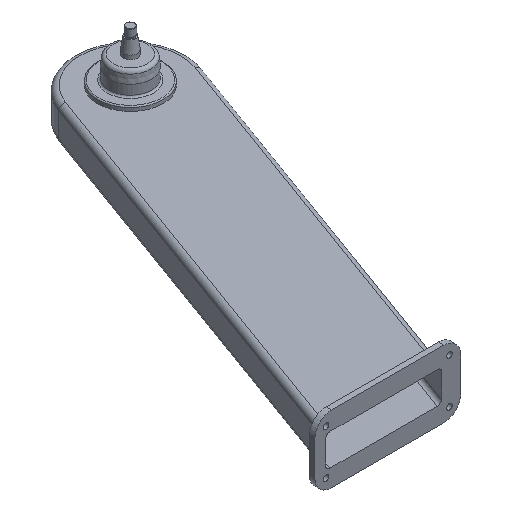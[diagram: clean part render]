
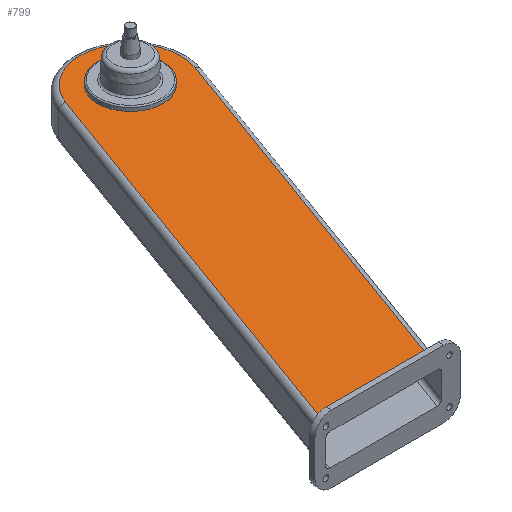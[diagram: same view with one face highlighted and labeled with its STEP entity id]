
A CAD part, isometric view. The second image highlights one B-rep face of the part: STEP entity #799.
In plain terms, the highlighted planar face has unit normal (0, 0, 1).
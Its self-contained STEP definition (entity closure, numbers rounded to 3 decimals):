
#11 = AXIS2_PLACEMENT_3D ( 'NONE', #649, #645, #634 ) ;
#45 = VERTEX_POINT ( 'NONE', #1792 ) ;
#114 = EDGE_LOOP ( 'NONE', ( #1801, #641, #235, #1543 ) ) ;
#117 = VERTEX_POINT ( 'NONE', #1431 ) ;
#132 = VECTOR ( 'NONE', #762, 1000. ) ;
#219 = LINE ( 'NONE', #934, #1522 ) ;
#235 = ORIENTED_EDGE ( 'NONE', *, *, #1289, .T. ) ;
#316 = DIRECTION ( 'NONE',  ( 1., 0., 0. ) ) ;
#318 = CARTESIAN_POINT ( 'NONE',  ( 0., -690., 31.25 ) ) ;
#338 = CARTESIAN_POINT ( 'NONE',  ( -155.363, -690., 31.25 ) ) ;
#455 = FACE_BOUND ( 'NONE', #1727, .T. ) ;
#490 = PLANE ( 'NONE',  #604 ) ;
#514 = DIRECTION ( 'NONE',  ( 1., 0., 0. ) ) ;
#517 = DIRECTION ( 'NONE',  ( 0., 0., 1. ) ) ;
#567 = LINE ( 'NONE', #318, #631 ) ;
#602 = DIRECTION ( 'NONE',  ( 1., 0., 0. ) ) ;
#603 = DIRECTION ( 'NONE',  ( 0., 0., 1. ) ) ;
#604 = AXIS2_PLACEMENT_3D ( 'NONE', #605, #517, #514 ) ;
#605 = CARTESIAN_POINT ( 'NONE',  ( 0., 0., 31.25 ) ) ;
#606 = CARTESIAN_POINT ( 'NONE',  ( 0., 0., 31.25 ) ) ;
#631 = VECTOR ( 'NONE', #316, 1000. ) ;
#634 = DIRECTION ( 'NONE',  ( 1., 0., 0. ) ) ;
#641 = ORIENTED_EDGE ( 'NONE', *, *, #1466, .T. ) ;
#645 = DIRECTION ( 'NONE',  ( 0., 0., 1. ) ) ;
#649 = CARTESIAN_POINT ( 'NONE',  ( 0., 0., 31.25 ) ) ;
#762 = DIRECTION ( 'NONE',  ( 0.342, 0.94, 0. ) ) ;
#763 = CARTESIAN_POINT ( 'NONE',  ( 84.572, -30.782, 31.25 ) ) ;
#799 = ADVANCED_FACE ( 'NONE', ( #1342, #455 ), #490, .T. ) ;
#894 = DIRECTION ( 'NONE',  ( -0.342, -0.94, 0. ) ) ;
#934 = CARTESIAN_POINT ( 'NONE',  ( -355.44, -713.42, 31.25 ) ) ;
#1017 = VERTEX_POINT ( 'NONE', #1438 ) ;
#1042 = AXIS2_PLACEMENT_3D ( 'NONE', #606, #603, #602 ) ;
#1066 = VERTEX_POINT ( 'NONE', #1345 ) ;
#1249 = EDGE_CURVE ( 'NONE', #1066, #1017, #219, .T. ) ;
#1289 = EDGE_CURVE ( 'NONE', #1459, #117, #1452, .T. ) ;
#1306 = CIRCLE ( 'NONE', #11, 90. ) ;
#1308 = CIRCLE ( 'NONE', #1042, 58. ) ;
#1327 = EDGE_CURVE ( 'NONE', #117, #1066, #1306, .T. ) ;
#1341 = EDGE_CURVE ( 'NONE', #45, #45, #1308, .T. ) ;
#1342 = FACE_OUTER_BOUND ( 'NONE', #114, .T. ) ;
#1345 = CARTESIAN_POINT ( 'NONE',  ( -84.572, 30.782, 31.25 ) ) ;
#1431 = CARTESIAN_POINT ( 'NONE',  ( 84.572, -30.782, 31.25 ) ) ;
#1438 = CARTESIAN_POINT ( 'NONE',  ( -346.915, -690., 31.25 ) ) ;
#1452 = LINE ( 'NONE', #763, #132 ) ;
#1459 = VERTEX_POINT ( 'NONE', #338 ) ;
#1466 = EDGE_CURVE ( 'NONE', #1017, #1459, #567, .T. ) ;
#1522 = VECTOR ( 'NONE', #894, 1000. ) ;
#1543 = ORIENTED_EDGE ( 'NONE', *, *, #1327, .T. ) ;
#1727 = EDGE_LOOP ( 'NONE', ( #1798 ) ) ;
#1792 = CARTESIAN_POINT ( 'NONE',  ( 58., 0., 31.25 ) ) ;
#1798 = ORIENTED_EDGE ( 'NONE', *, *, #1341, .F. ) ;
#1801 = ORIENTED_EDGE ( 'NONE', *, *, #1249, .T. ) ;
